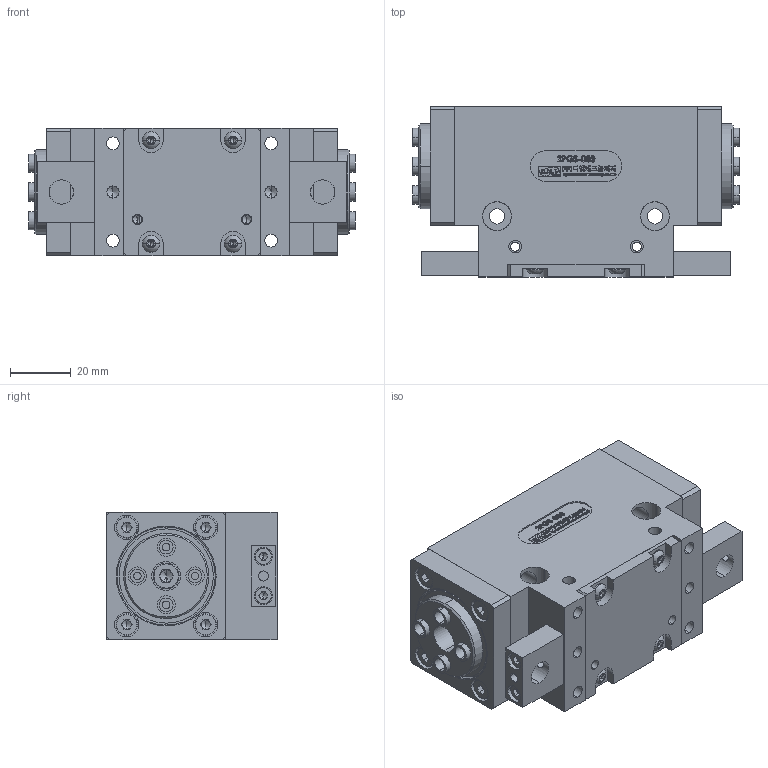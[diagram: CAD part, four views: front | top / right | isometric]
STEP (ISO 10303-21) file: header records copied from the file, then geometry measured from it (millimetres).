
FILE_DESCRIPTION (( 'STEP AP214' ), '1' );
FILE_NAME ('2PGS 080.STEP', '2012-02-28T07:14:48', ( 'xw4600' ), ( '' ), 'SwSTEP 2.0', 'SolidWorks 2010', '' );
FILE_SCHEMA (( 'AUTOMOTIVE_DESIGN' ));
Length unit declared in the file: millimetre
Products named in the file (16): 2DP-080-01_Default; 2DP-080-02_Default; 2DP-080-03_Default; 2DP-080-04_Default; 2DP-080-07_Default; 2DP-080-08_Default; 2DP-080-11_Default; 2DP-080-13_Default; 2DP-080-P5_Default; countersunk head screw_ISO 10642 - M3 x 8 --- 8N; socket head cap screw_ISO 4762 M4 x 12 --- 12N; socket head cap screw_ISO 4762 M3 x 20 --- 20N; socket button head screw_ISO 7380 - M3 x 8 --- 8N; mark(2DP-080)_Default; socket head cap screw_ISO 4762 M5 x 16 --- 16N; 2PGS 080
Assembly tree (49 placements, depth 2):
  2PGS 080
    socket head cap screw_ISO 4762 M4 x 12 --- 12N  x8
    2DP-080-01_Default
    countersunk head screw_ISO 10642 - M3 x 8 --- 8N  x8
    socket button head screw_ISO 7380 - M3 x 8 --- 8N  x4
    2DP-080-08_Default  x2
    socket head cap screw_ISO 4762 M3 x 20 --- 20N  x4
    2DP-080-03_Default  x2
    2DP-080-11_Default  x8
    socket head cap screw_ISO 4762 M5 x 16 --- 16N  x2
    mark(2DP-080)_Default  x2
    2DP-080-04_Default  x2
    2DP-080-13_Default  x2
    2DP-080-02_Default
    2DP-080-07_Default
    2DP-080-P5_Default  x2
Bounding box: 107.4 x 56 x 42 mm (x, y, z)
Volume: 168497.8 mm3; surface area: 87642.1 mm2
Topology: 49 solids, 49 shells, 3235 faces, 8205 edges, 5252 vertices
Faces by surface type: plane 1786, bspline 614, cylinder 501, cone 216, torus 110, sphere 8
Entity records: 75705 total; most frequent: CARTESIAN_POINT 27879, ORIENTED_EDGE 8076, DIRECTION 6757, EDGE_CURVE 4038, VERTEX_POINT 2650, LINE 2597, VECTOR 2597, AXIS2_PLACEMENT_3D 2080
